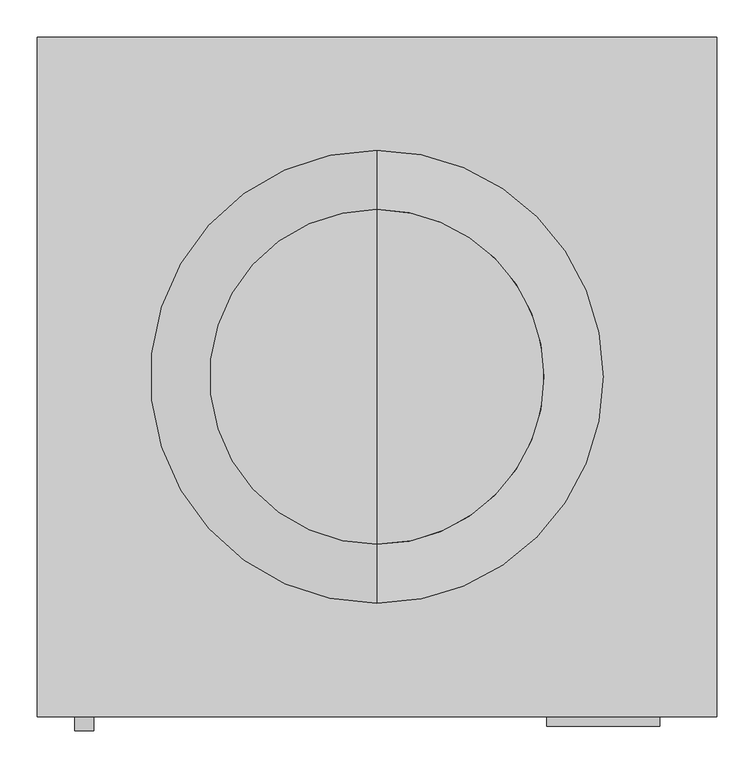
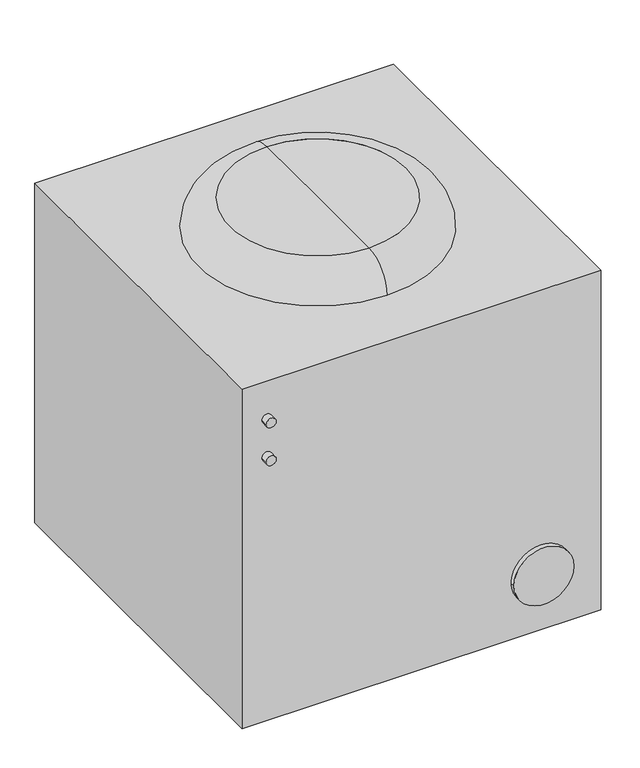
"""IFC4 building model written with IfcOpenShell, lengths in millimetres: proxy geometry, Reversible_Condenser : Reversible_Condenser."""

from ifc_helpers import new_model, si_unit, point, frame, frame_2d, origin, origin_with_axes, place, context, project, spatial, polyline, circle_curve, ellipse_curve, trimmed, segment, composite_curve, outline, extrude, source, transform, mapped, element, save
from ifc_brep_helpers import plane_surface, revolved_surface, advanced_brep


def mechanical_equipment_feb54d8c(model_context):
    return source(origin(), model_context, "Body", "SolidModel", [
        extrude(outline(composite_curve([segment(trimmed(circle_curve(frame_2d((152.4, 304.8)), 76.2), [point((152.4, 381.0))], [point((152.4, 228.6))], False, "CARTESIAN"), True, "CONTINUOUS"), segment(trimmed(circle_curve(frame_2d((152.4, 304.8)), 76.2), [point((152.4, 228.6))], [point((152.4, 381.0))], False, "CARTESIAN"), True, "CONTINUOUS")], self_intersect=False)), frame((0.0, -469.9, 0.0), z_axis=(0.0, 1.0, 0.0), x_axis=(0.0, 0.0, 1.0)), (0.0, 0.0, 1.0), 12.7),
        advanced_brep(
        [(0.0, 304.8, 914.4), (0.0, -304.8, 914.4), (0.0, -225.4469223, 993.7530777), (0.0, 225.4469223, 993.7530777), (0.0, 0.0, 914.4), (0.0, 0.0, 993.7530777)],
        [
            (0, 1, circle_curve(frame((0.0, 0.0, 914.4), z_axis=(0.0, 0.0, 1.0), x_axis=(0.0, -1.0, 0.0)), 304.8)),
            (1, 2, circle_curve(frame((0.0, -225.4469223, 914.4), z_axis=(-1.0, 0.0, 0.0), x_axis=(0.0, 1.0, 0.0)), 79.3530777)),
            (2, 3, circle_curve(frame((0.0, 0.0, 993.7530777), z_axis=(0.0, 0.0, -1.0), x_axis=(0.0, -1.0, 0.0)), 225.4469223)),
            (3, 0, circle_curve(frame((0.0, 225.4469223, 914.4), z_axis=(-1.0, 0.0, 0.0), x_axis=(0.0, -1.0, 0.0)), 79.3530777)),
            (1, 0, circle_curve(frame((0.0, 0.0, 914.4), z_axis=(0.0, 0.0, 1.0), x_axis=(0.0, -1.0, 0.0)), 304.8)),
            (3, 2, circle_curve(frame((0.0, 0.0, 993.7530777), z_axis=(0.0, 0.0, -1.0), x_axis=(0.0, -1.0, 0.0)), 225.4469223)),
            (4, 1),
            (0, 4),
            (2, 5),
            (5, 3),
        ],
        [
            revolved_surface(trimmed(ellipse_curve(frame((0.0, -225.4469223, 914.4), z_axis=(1.0, 0.0, 0.0), x_axis=(0.0, 1.0, 0.0)), 79.3530777, 79.3530777), [point((0.0, -225.4469223, 993.7530777))], [point((0.0, -304.8, 914.4))], True, "CARTESIAN"), (0.0, 0.0, 812.8), (0.0, 0.0, -1.0)),
            plane_surface(frame((0.0, 0.0, 914.4), z_axis=(0.0, 0.0, -1.0), x_axis=(0.0, -1.0, 0.0))),
            plane_surface(frame((0.0, 0.0, 993.7530777), z_axis=(0.0, 0.0, 1.0), x_axis=(0.0, -1.0, 0.0))),
        ],
        [
            (0, [[1, 2, 3, 4]]),
            (0, [[5, -4, 6, -2]]),
            (1, [[7, -1, 8]]),
            (1, [[-8, -5, -7]]),
            (2, [[-3, 9, 10]]),
            (2, [[-6, -10, -9]]),
        ],
    ),
        extrude(outline(composite_curve([segment(trimmed(circle_curve(frame_2d((812.8, -393.7)), 12.7), [point((812.8, -381.0))], [point((812.8, -406.4))], False, "CARTESIAN"), True, "CONTINUOUS"), segment(trimmed(circle_curve(frame_2d((812.8, -393.7)), 12.7), [point((812.8, -406.4))], [point((812.8, -381.0))], False, "CARTESIAN"), True, "CONTINUOUS")], self_intersect=False)), frame((0.0, -476.25, 0.0), z_axis=(0.0, 1.0, 0.0), x_axis=(0.0, 0.0, 1.0)), (0.0, 0.0, 1.0), 19.05),
        extrude(outline(composite_curve([segment(trimmed(circle_curve(frame_2d((711.2, -393.7)), 12.7), [point((711.2, -381.0))], [point((711.2, -406.4))], False, "CARTESIAN"), True, "CONTINUOUS"), segment(trimmed(circle_curve(frame_2d((711.2, -393.7)), 12.7), [point((711.2, -406.4))], [point((711.2, -381.0))], False, "CARTESIAN"), True, "CONTINUOUS")], self_intersect=False)), frame((0.0, -476.25, 0.0), z_axis=(0.0, 1.0, 0.0), x_axis=(0.0, 0.0, 1.0)), (0.0, 0.0, 1.0), 19.05),
        extrude(outline(polyline([(457.2, 457.2), (457.2, -457.2), (-457.2, -457.2), (-457.2, 457.2), (457.2, 457.2)])), origin_with_axes(), (0.0, 0.0, 1.0), 914.4),
    ])


if __name__ == "__main__":
    model = new_model("IFC4")
    model_context = context("Model", 3, world=origin())
    ifc_project = project(units=[si_unit("LENGTHUNIT", "METRE", prefix="MILLI")], contexts=[model_context])
    site = spatial("IfcSite", under=ifc_project)
    building = spatial("IfcBuilding", under=site)
    placement = place(None, origin())
    mechanical_equipment_shape = mechanical_equipment_feb54d8c(model_context)
    element("IfcBuildingElementProxy", 1, Name="Reversible_Condenser : Reversible_Condenser", ObjectType="Reversible_Condenser : Reversible_Condenser", at=placement, inside=building, context=model_context, shape_type="MappedRepresentation", body=[
        mapped(mechanical_equipment_shape, transform((0.0, 0.0, 0.0), x_axis=(1.0, 0.0, 0.0), y_axis=(0.0, 1.0, 0.0), z_axis=(0.0, 0.0, 1.0))),
    ])
    save(model, "model.ifc")
